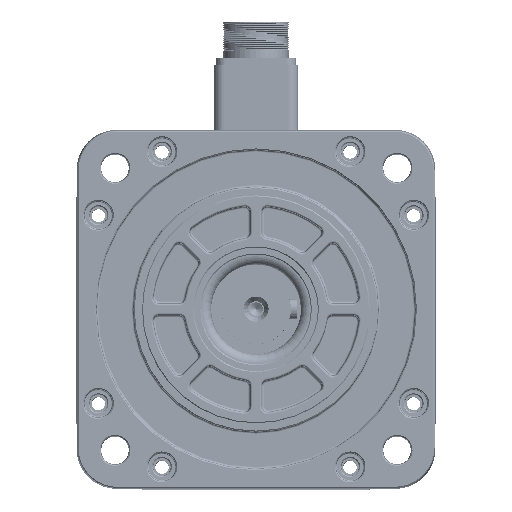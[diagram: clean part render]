
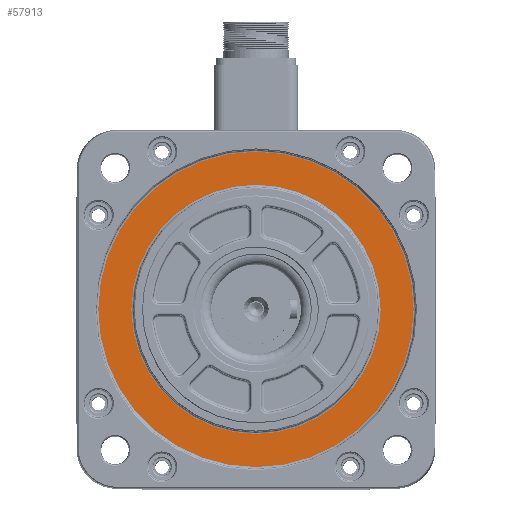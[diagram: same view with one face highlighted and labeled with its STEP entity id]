
A CAD part, top view. The second image highlights one B-rep face of the part: STEP entity #57913.
In plain terms, the highlighted planar face has unit normal (0, 0, 1).
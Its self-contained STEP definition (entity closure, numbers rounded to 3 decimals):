
#1401 = EDGE_CURVE ( 'NONE', #148886, #84971, #152940, .T. ) ;
#4992 = AXIS2_PLACEMENT_3D ( 'NONE', #159802, #128820, #117797 ) ;
#8784 = DIRECTION ( 'NONE',  ( 0., 0., 1. ) ) ;
#10317 = CARTESIAN_POINT ( 'NONE',  ( 0., 0., 15. ) ) ;
#17039 = CIRCLE ( 'NONE', #52447, 62.466 ) ;
#24681 = VERTEX_POINT ( 'NONE', #148508 ) ;
#30199 = AXIS2_PLACEMENT_3D ( 'NONE', #63651, #61853, #159688 ) ;
#31585 = EDGE_CURVE ( 'NONE', #24681, #64463, #124778, .T. ) ;
#35238 = CARTESIAN_POINT ( 'NONE',  ( 79.034, 0., 15. ) ) ;
#35397 = CARTESIAN_POINT ( 'NONE',  ( -62.466, 0., 15. ) ) ;
#36829 = DIRECTION ( 'NONE',  ( 1., 0., 0. ) ) ;
#50824 = DIRECTION ( 'NONE',  ( 1., 0., 0. ) ) ;
#52447 = AXIS2_PLACEMENT_3D ( 'NONE', #56753, #112596, #98845 ) ;
#55501 = AXIS2_PLACEMENT_3D ( 'NONE', #10317, #138365, #36829 ) ;
#56753 = CARTESIAN_POINT ( 'NONE',  ( 0., 0., 15. ) ) ;
#57913 = ADVANCED_FACE ( 'NONE', ( #59382, #129820 ), #177001, .T. ) ;
#58350 = CIRCLE ( 'NONE', #55501, 79.034 ) ;
#59382 = FACE_OUTER_BOUND ( 'NONE', #143469, .T. ) ;
#61853 = DIRECTION ( 'NONE',  ( 0., 0., -1. ) ) ;
#63651 = CARTESIAN_POINT ( 'NONE',  ( 0., 0., 15. ) ) ;
#64463 = VERTEX_POINT ( 'NONE', #35238 ) ;
#84971 = VERTEX_POINT ( 'NONE', #100422 ) ;
#86187 = ORIENTED_EDGE ( 'NONE', *, *, #142755, .T. ) ;
#98845 = DIRECTION ( 'NONE',  ( 1., 0., 0. ) ) ;
#100422 = CARTESIAN_POINT ( 'NONE',  ( 62.466, 0., 15. ) ) ;
#106685 = CARTESIAN_POINT ( 'NONE',  ( 0., 0., 15. ) ) ;
#112596 = DIRECTION ( 'NONE',  ( 0., 0., -1. ) ) ;
#117797 = DIRECTION ( 'NONE',  ( 1., 0., 0. ) ) ;
#119854 = EDGE_LOOP ( 'NONE', ( #86187, #178977 ) ) ;
#124778 = CIRCLE ( 'NONE', #4992, 79.034 ) ;
#128820 = DIRECTION ( 'NONE',  ( 0., 0., 1. ) ) ;
#129820 = FACE_BOUND ( 'NONE', #119854, .T. ) ;
#138365 = DIRECTION ( 'NONE',  ( 0., 0., 1. ) ) ;
#142755 = EDGE_CURVE ( 'NONE', #84971, #148886, #17039, .T. ) ;
#143469 = EDGE_LOOP ( 'NONE', ( #169381, #158099 ) ) ;
#148508 = CARTESIAN_POINT ( 'NONE',  ( -79.034, 0., 15. ) ) ;
#148886 = VERTEX_POINT ( 'NONE', #35397 ) ;
#152940 = CIRCLE ( 'NONE', #30199, 62.466 ) ;
#158099 = ORIENTED_EDGE ( 'NONE', *, *, #31585, .T. ) ;
#158177 = EDGE_CURVE ( 'NONE', #64463, #24681, #58350, .T. ) ;
#159688 = DIRECTION ( 'NONE',  ( 1., 0., 0. ) ) ;
#159802 = CARTESIAN_POINT ( 'NONE',  ( 0., 0., 15. ) ) ;
#161817 = AXIS2_PLACEMENT_3D ( 'NONE', #106685, #8784, #50824 ) ;
#169381 = ORIENTED_EDGE ( 'NONE', *, *, #158177, .T. ) ;
#177001 = PLANE ( 'NONE',  #161817 ) ;
#178977 = ORIENTED_EDGE ( 'NONE', *, *, #1401, .T. ) ;
